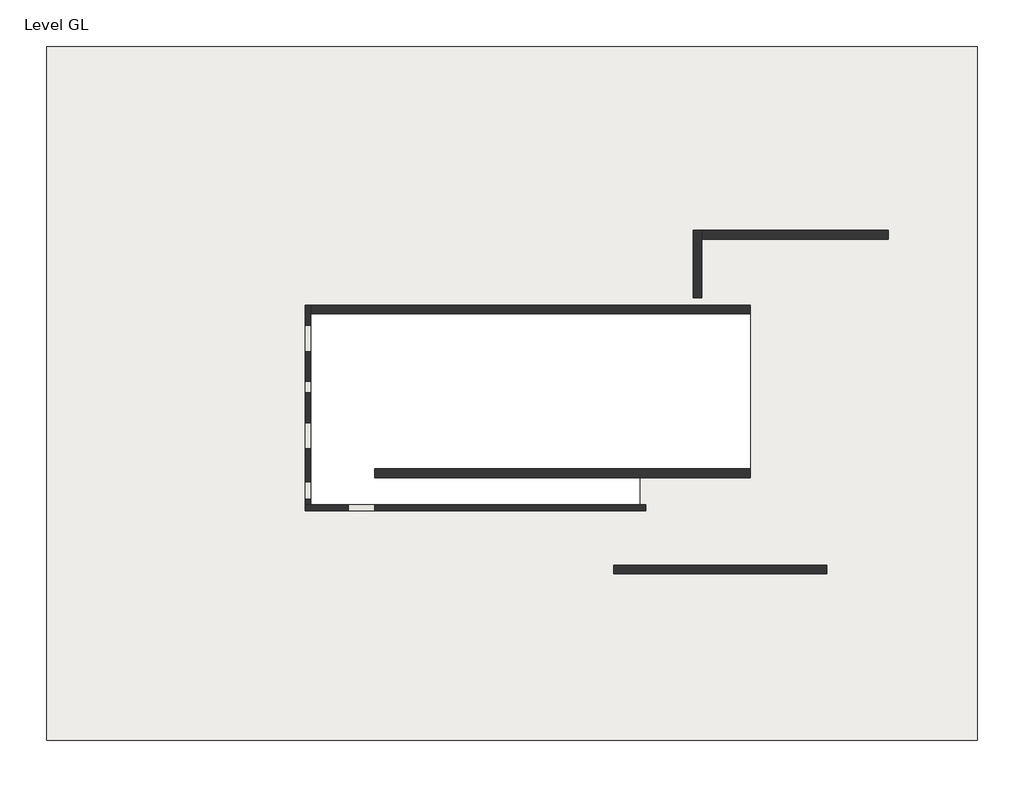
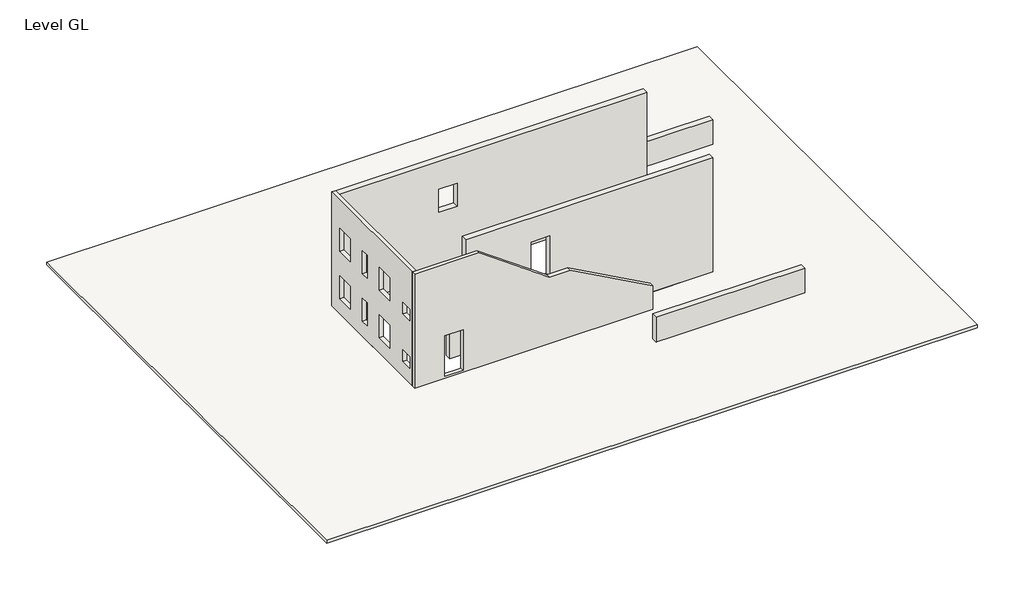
# One storey: 7 walls, 1 slab.
"""IFC4 building model written with IfcOpenShell, lengths in millimetres."""

from ifc_helpers import new_model, si_unit, frame, origin, origin_with_axes, place, context, project, spatial, polyline, outline, extrude, faceted_brep, element, save

model = new_model("IFC4")

# Units and contexts
model_context = context("Model", 3, world=origin())
ifc_project = project(units=[si_unit("LENGTHUNIT", "METRE", prefix="MILLI")], contexts=[model_context])

# Site, building, storey
site = spatial("IfcSite", under=ifc_project)
building = spatial("IfcBuilding", under=site)
storey = spatial("IfcBuildingStorey", under=building, Name="Level GL", Elevation=0.0)

# Slab
placement = place(None, origin())
element("IfcSlab", 1, ObjectType="Generic 150mm", at=placement, inside=storey, context=model_context, shape_type="SweptSolid", body=[
    extrude(outline(polyline([(15726.2760724, -22146.8966791), (-16673.7239276, -22146.8966791), (-16673.7239276, 2003.1033209), (15726.2760724, 2003.1033209), (15726.2760724, -22146.8966791)]), holes=[polyline([(-7673.7239276, -6996.8966791), (-7673.7239276, -14146.8966791), (4176.2760724, -14146.8966791), (4176.2760724, -13946.8966791), (3976.2760724, -13946.8966791), (3976.2760724, -12996.8966791), (7826.2760724, -12996.8966791), (7826.2760724, -6996.8966791), (-7673.7239276, -6996.8966791)])]), frame((0.0, 0.0, -150.0), z_axis=(0.0, 0.0, 1.0), x_axis=(1.0, 0.0, 0.0)), (0.0, 0.0, 1.0), 150.0),
])

# Walls
element("IfcWall", 2, ObjectType="Generic - 200mm", at=placement, inside=storey, context=model_context, shape_type="Brep", body=[
    faceted_brep([(-7473.7239276, -13946.8966791, 0.0), (-7473.7239276, -7296.8966791, 0.0), (-7473.7239276, -6996.8966791, 0.0), (-7473.7239276, -6996.8966791, 6000.0), (-7473.7239276, -7296.8966791, 6000.0), (-7473.7239276, -13946.8966791, 6000.0), (-7473.7239276, -7696.3966791, 4520.0), (-7473.7239276, -7696.3966791, 3300.0), (-7473.7239276, -8611.3966791, 3300.0), (-7473.7239276, -8611.3966791, 4520.0), (-7473.7239276, -11082.3966791, 4520.0), (-7473.7239276, -11082.3966791, 3300.0), (-7473.7239276, -11997.3966791, 3300.0), (-7473.7239276, -11997.3966791, 4520.0), (-7473.7239276, -7696.3966791, 2020.0), (-7473.7239276, -7696.3966791, 800.0), (-7473.7239276, -8611.3966791, 800.0), (-7473.7239276, -8611.3966791, 2020.0), (-7473.7239276, -11082.3966791, 2020.0), (-7473.7239276, -11082.3966791, 800.0), (-7473.7239276, -11997.3966791, 800.0), (-7473.7239276, -11997.3966791, 2020.0), (-7473.7239276, -10052.8966791, 3300.0), (-7473.7239276, -10052.8966791, 4520.0), (-7473.7239276, -9646.8966791, 4520.0), (-7473.7239276, -9646.8966791, 3300.0), (-7473.7239276, -10052.8966791, 800.0), (-7473.7239276, -10052.8966791, 2020.0), (-7473.7239276, -9646.8966791, 2020.0), (-7473.7239276, -9646.8966791, 800.0), (-7473.7239276, -13136.8966791, 1410.0), (-7473.7239276, -13136.8966791, 800.0), (-7473.7239276, -13746.8966791, 800.0), (-7473.7239276, -13746.8966791, 1410.0), (-7473.7239276, -13136.8966791, 3910.0), (-7473.7239276, -13136.8966791, 3300.0), (-7473.7239276, -13746.8966791, 3300.0), (-7473.7239276, -13746.8966791, 3910.0), (-7673.7239276, -13946.8966791, 0.0), (-7673.7239276, -13946.8966791, 6000.0), (-7673.7239276, -6996.8966791, 6000.0), (-7673.7239276, -6996.8966791, 0.0), (-7673.7239276, -7696.3966791, 4520.0), (-7673.7239276, -8611.3966791, 4520.0), (-7673.7239276, -8611.3966791, 3300.0), (-7673.7239276, -7696.3966791, 3300.0), (-7673.7239276, -11082.3966791, 4520.0), (-7673.7239276, -11997.3966791, 4520.0), (-7673.7239276, -11997.3966791, 3300.0), (-7673.7239276, -11082.3966791, 3300.0), (-7673.7239276, -7696.3966791, 2020.0), (-7673.7239276, -8611.3966791, 2020.0), (-7673.7239276, -8611.3966791, 800.0), (-7673.7239276, -7696.3966791, 800.0), (-7673.7239276, -11082.3966791, 2020.0), (-7673.7239276, -11997.3966791, 2020.0), (-7673.7239276, -11997.3966791, 800.0), (-7673.7239276, -11082.3966791, 800.0), (-7673.7239276, -10052.8966791, 3300.0), (-7673.7239276, -9646.8966791, 3300.0), (-7673.7239276, -9646.8966791, 4520.0), (-7673.7239276, -10052.8966791, 4520.0), (-7673.7239276, -10052.8966791, 800.0), (-7673.7239276, -9646.8966791, 800.0), (-7673.7239276, -9646.8966791, 2020.0), (-7673.7239276, -10052.8966791, 2020.0), (-7673.7239276, -13136.8966791, 1410.0), (-7673.7239276, -13746.8966791, 1410.0), (-7673.7239276, -13746.8966791, 800.0), (-7673.7239276, -13136.8966791, 800.0), (-7673.7239276, -13136.8966791, 3910.0), (-7673.7239276, -13746.8966791, 3910.0), (-7673.7239276, -13746.8966791, 3300.0), (-7673.7239276, -13136.8966791, 3300.0)], [[[0, 1, 2, 3, 4, 5], [6, 7, 8, 9], [10, 11, 12, 13], [14, 15, 16, 17], [18, 19, 20, 21], [22, 23, 24, 25], [26, 27, 28, 29], [30, 31, 32, 33], [34, 35, 36, 37]], [[38, 39, 40, 41], [42, 43, 44, 45], [46, 47, 48, 49], [50, 51, 52, 53], [54, 55, 56, 57], [58, 59, 60, 61], [62, 63, 64, 65], [66, 67, 68, 69], [70, 71, 72, 73]], [[2, 1, 0, 38, 41]], [[5, 4, 3, 40, 39]], [[3, 2, 41, 40]], [[0, 5, 39, 38]], [[7, 6, 42, 45]], [[8, 7, 45, 44]], [[9, 8, 44, 43]], [[6, 9, 43, 42]], [[11, 10, 46, 49]], [[12, 11, 49, 48]], [[13, 12, 48, 47]], [[10, 13, 47, 46]], [[15, 14, 50, 53]], [[16, 15, 53, 52]], [[17, 16, 52, 51]], [[14, 17, 51, 50]], [[19, 18, 54, 57]], [[20, 19, 57, 56]], [[21, 20, 56, 55]], [[18, 21, 55, 54]], [[23, 22, 58, 61]], [[24, 23, 61, 60]], [[25, 24, 60, 59]], [[22, 25, 59, 58]], [[27, 26, 62, 65]], [[28, 27, 65, 64]], [[29, 28, 64, 63]], [[26, 29, 63, 62]], [[31, 30, 66, 69]], [[32, 31, 69, 68]], [[33, 32, 68, 67]], [[30, 33, 67, 66]], [[35, 34, 70, 73]], [[36, 35, 73, 72]], [[37, 36, 72, 71]], [[34, 37, 71, 70]]]),
])
element("IfcWall", 3, ObjectType="Generic - 200mm", at=placement, inside=storey, context=model_context, shape_type="Brep", body=[
    faceted_brep([(4176.2760724, -13946.8966791, 0.0), (-7473.7239276, -13946.8966791, 0.0), (-7673.7239276, -13946.8966791, 0.0), (-7673.7239276, -13946.8966791, 6000.0), (-7473.7239276, -13946.8966791, 6000.0), (-4473.7239276, -13946.8966791, 6000.0), (-973.7239276, -13946.8966791, 3500.0), (76.2760724, -13946.8966791, 3500.0), (4176.2760724, -13946.8966791, 1259.5238095), (-5258.7239276, -13946.8966791, 100.0), (-5258.7239276, -13946.8966791, 2234.0), (-6173.7239276, -13946.8966791, 2234.0), (-6173.7239276, -13946.8966791, 100.0), (4176.2760724, -14146.8966791, 0.0), (4176.2760724, -14146.8966791, 1259.5238095), (76.2760724, -14146.8966791, 3500.0), (-973.7239276, -14146.8966791, 3500.0), (-4473.7239276, -14146.8966791, 6000.0), (-7673.7239276, -14146.8966791, 6000.0), (-7673.7239276, -14146.8966791, 0.0), (-5258.7239276, -14146.8966791, 100.0), (-6173.7239276, -14146.8966791, 100.0), (-6173.7239276, -14146.8966791, 2234.0), (-5258.7239276, -14146.8966791, 2234.0)], [[[0, 1, 2, 3, 4, 5, 6, 7, 8], [9, 10, 11, 12]], [[13, 14, 15, 16, 17, 18, 19], [20, 21, 22, 23]], [[3, 2, 19, 18]], [[2, 1, 0, 13, 19]], [[5, 4, 3, 18, 17]], [[0, 8, 14, 13]], [[6, 5, 17, 16]], [[7, 6, 16, 15]], [[8, 7, 15, 14]], [[21, 20, 9, 12]], [[22, 21, 12, 11]], [[23, 22, 11, 10]], [[20, 23, 10, 9]]]),
])
element("IfcWall", 4, ObjectType="Generic - 300mm", at=placement, inside=storey, context=model_context, shape_type="Brep", body=[
    faceted_brep([(7826.2760724, -12696.8966791, 0.0), (-5253.7239276, -12696.8966791, 0.0), (-5253.7239276, -12696.8966791, 4950.0), (-4473.7239276, -12696.8966791, 4950.0), (-4473.7239276, -12696.8966791, 6000.0), (7626.2760724, -12696.8966791, 6000.0), (7826.2760724, -12696.8966791, 6000.0), (7826.2760724, -12696.8966791, 4950.0), (7826.2760724, -12696.8966791, 100.0), (-291.2239276, -12696.8966791, 2600.0), (-291.2239276, -12696.8966791, 4734.0), (-1206.2239276, -12696.8966791, 4734.0), (-1206.2239276, -12696.8966791, 2600.0), (7826.2760724, -12996.8966791, 0.0), (7826.2760724, -12996.8966791, 6000.0), (-4473.7239276, -12996.8966791, 6000.0), (-4473.7239276, -12996.8966791, 4950.0), (-5253.7239276, -12996.8966791, 4950.0), (-5253.7239276, -12996.8966791, 0.0), (-291.2239276, -12996.8966791, 2600.0), (-1206.2239276, -12996.8966791, 2600.0), (-1206.2239276, -12996.8966791, 4734.0), (-291.2239276, -12996.8966791, 4734.0)], [[[0, 1, 2, 3, 4, 5, 6, 7, 8], [9, 10, 11, 12]], [[13, 14, 15, 16, 17, 18], [19, 20, 21, 22]], [[20, 19, 9, 12]], [[21, 20, 12, 11]], [[22, 21, 11, 10]], [[19, 22, 10, 9]], [[1, 0, 13, 18]], [[2, 1, 18, 17]], [[3, 2, 17, 16]], [[4, 3, 16, 15]], [[6, 5, 4, 15, 14]], [[0, 8, 7, 6, 14, 13]]]),
])
element("IfcWall", 5, ObjectType="Generic - 300mm", at=placement, inside=storey, context=model_context, shape_type="Brep", body=[
    faceted_brep([(6126.2760724, -6746.8966791, 0.0), (6126.2760724, -4696.8966791, 0.0), (6126.2760724, -4396.8966791, 0.0), (6126.2760724, -4396.8966791, 1300.0), (6126.2760724, -4696.8966791, 1300.0), (6126.2760724, -6746.8966791, 1300.0), (5826.2760724, -6746.8966791, 0.0), (5826.2760724, -6746.8966791, 1300.0), (5826.2760724, -4396.8966791, 1300.0), (5826.2760724, -4396.8966791, 0.0)], [[[0, 1, 2, 3, 4, 5]], [[6, 7, 8, 9]], [[2, 1, 0, 6, 9]], [[5, 4, 3, 8, 7]], [[0, 5, 7, 6]], [[3, 2, 9, 8]]]),
])
element("IfcWall", 6, ObjectType="Generic - 300mm", at=placement, inside=storey, context=model_context, shape_type="SweptSolid", body=[
    extrude(outline(polyline([(12626.2760724, -4696.8966791), (6126.2760724, -4696.8966791), (6126.2760724, -4396.8966791), (12626.2760724, -4396.8966791), (12626.2760724, -4696.8966791)])), origin_with_axes(), (0.0, 0.0, 1.0), 1300.0),
])
element("IfcWall", 7, ObjectType="Generic - 300mm", at=placement, inside=storey, context=model_context, shape_type="Brep", body=[
    faceted_brep([(3076.2760724, -16346.8966791, 0.0), (10476.2760724, -16346.8966791, 0.0), (10476.2760724, -16346.8966791, 1300.0), (3076.2760724, -16346.8966791, 1300.0), (3076.2760724, -16346.8966791, 100.0), (3076.2760724, -16046.8966791, 0.0), (3076.2760724, -16046.8966791, 1300.0), (10476.2760724, -16046.8966791, 1300.0), (10476.2760724, -16046.8966791, 0.0)], [[[0, 1, 2, 3, 4]], [[5, 6, 7, 8]], [[1, 0, 5, 8]], [[2, 1, 8, 7]], [[3, 2, 7, 6]], [[0, 4, 3, 6, 5]]]),
])
element("IfcWall", 8, ObjectType="Generic - 300mm Brick 2 TN1", at=placement, inside=storey, context=model_context, shape_type="Brep", body=[
    faceted_brep([(-7473.7239276, -7296.8966791, 0.0), (7826.2760724, -7296.8966791, 0.0), (7826.2760724, -7296.8966791, 4950.0), (7826.2760724, -7296.8966791, 6000.0), (7626.2760724, -7296.8966791, 6000.0), (-7473.7239276, -7296.8966791, 6000.0), (-7473.7239276, -7296.8966791, 5100.0), (-7473.7239276, -7296.8966791, 4950.0), (-7473.7239276, -7296.8966791, 2600.0), (-7473.7239276, -7296.8966791, 2450.0), (-1608.7239276, -7296.8966791, 3300.0), (-2523.7239276, -7296.8966791, 3300.0), (-2523.7239276, -7296.8966791, 4520.0), (-1608.7239276, -7296.8966791, 4520.0), (-7473.7239276, -6996.8966791, 0.0), (-7473.7239276, -6996.8966791, 6000.0), (7826.2760724, -6996.8966791, 6000.0), (7826.2760724, -6996.8966791, 0.0), (-1608.7239276, -6996.8966791, 3300.0), (-1608.7239276, -6996.8966791, 4520.0), (-2523.7239276, -6996.8966791, 4520.0), (-2523.7239276, -6996.8966791, 3300.0)], [[[0, 1, 2, 3, 4, 5, 6, 7, 8, 9], [10, 11, 12, 13]], [[14, 15, 16, 17], [18, 19, 20, 21]], [[1, 0, 14, 17]], [[5, 4, 3, 16, 15]], [[0, 9, 8, 7, 6, 5, 15, 14]], [[3, 2, 1, 17, 16]], [[19, 18, 10, 13]], [[20, 19, 13, 12]], [[21, 20, 12, 11]], [[18, 21, 11, 10]]]),
])

save(model, "model.ifc")
